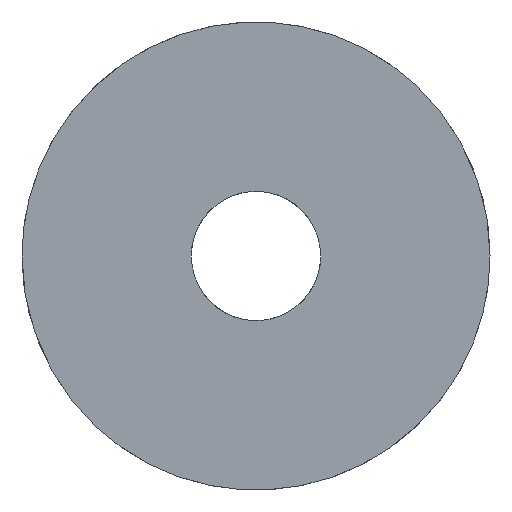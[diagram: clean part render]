
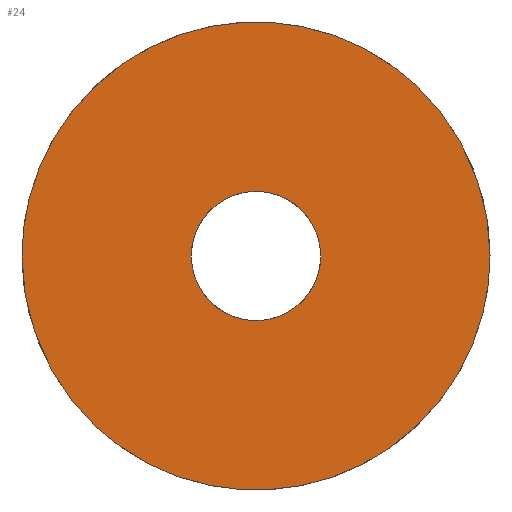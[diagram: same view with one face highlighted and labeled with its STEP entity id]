
A CAD part, left-side view. The second image highlights one B-rep face of the part: STEP entity #24.
In plain terms, the highlighted planar face has unit normal (-1, 0, 0).
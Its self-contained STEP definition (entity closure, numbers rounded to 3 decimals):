
#15=FACE_BOUND('',#61,.T.);
#24=ADVANCED_FACE('',(#42,#15),#249,.T.);
#42=FACE_OUTER_BOUND('',#60,.T.);
#60=EDGE_LOOP('',(#93,#94));
#61=EDGE_LOOP('',(#95,#96));
#93=ORIENTED_EDGE('',*,*,#159,.T.);
#94=ORIENTED_EDGE('',*,*,#178,.T.);
#95=ORIENTED_EDGE('',*,*,#181,.F.);
#96=ORIENTED_EDGE('',*,*,#162,.F.);
#159=EDGE_CURVE('',#229,#241,#195,.T.);
#162=EDGE_CURVE('',#231,#243,#198,.T.);
#178=EDGE_CURVE('',#241,#229,#214,.T.);
#181=EDGE_CURVE('',#243,#231,#217,.T.);
#195=(
BOUNDED_CURVE()
B_SPLINE_CURVE(2,(#479,#480,#481,#482,#483),.UNSPECIFIED.,.F.,.F.)
B_SPLINE_CURVE_WITH_KNOTS((3,2,3),(-625.177,-468.883,
-312.588),.UNSPECIFIED.)
CURVE()
GEOMETRIC_REPRESENTATION_ITEM()
RATIONAL_B_SPLINE_CURVE((1.,0.707,1.,0.707,1.))
REPRESENTATION_ITEM('')
);
#198=(
BOUNDED_CURVE()
B_SPLINE_CURVE(2,(#491,#492,#493,#494,#495),.UNSPECIFIED.,.F.,.F.)
B_SPLINE_CURVE_WITH_KNOTS((3,2,3),(-172.788,-129.591,
-86.394),.UNSPECIFIED.)
CURVE()
GEOMETRIC_REPRESENTATION_ITEM()
RATIONAL_B_SPLINE_CURVE((1.,0.707,1.,0.707,1.))
REPRESENTATION_ITEM('')
);
#214=(
BOUNDED_CURVE()
B_SPLINE_CURVE(2,(#553,#554,#555,#556,#557),.UNSPECIFIED.,.F.,.F.)
B_SPLINE_CURVE_WITH_KNOTS((3,2,3),(-312.588,-156.294,
0.),.UNSPECIFIED.)
CURVE()
GEOMETRIC_REPRESENTATION_ITEM()
RATIONAL_B_SPLINE_CURVE((1.,0.707,1.,0.707,1.))
REPRESENTATION_ITEM('')
);
#217=(
BOUNDED_CURVE()
B_SPLINE_CURVE(2,(#565,#566,#567,#568,#569),.UNSPECIFIED.,.F.,.F.)
B_SPLINE_CURVE_WITH_KNOTS((3,2,3),(-86.394,-43.197,
0.),.UNSPECIFIED.)
CURVE()
GEOMETRIC_REPRESENTATION_ITEM()
RATIONAL_B_SPLINE_CURVE((1.,0.707,1.,0.707,1.))
REPRESENTATION_ITEM('')
);
#229=VERTEX_POINT('',#435);
#231=VERTEX_POINT('',#437);
#241=VERTEX_POINT('',#447);
#243=VERTEX_POINT('',#449);
#249=PLANE('',#287);
#287=AXIS2_PLACEMENT_3D('',#335,#296,$);
#296=DIRECTION('',(-1.,0.,0.));
#335=CARTESIAN_POINT('',(117.,138.12,115.22));
#435=CARTESIAN_POINT('',(117.,113.245,239.595));
#437=CARTESIAN_POINT('',(117.,41.245,239.595));
#447=CARTESIAN_POINT('',(117.,-85.755,239.595));
#449=CARTESIAN_POINT('',(117.,-13.755,239.595));
#479=CARTESIAN_POINT('',(117.,113.245,239.595));
#480=CARTESIAN_POINT('',(117.,113.245,140.095));
#481=CARTESIAN_POINT('',(117.,13.745,140.095));
#482=CARTESIAN_POINT('',(117.,-85.755,140.095));
#483=CARTESIAN_POINT('',(117.,-85.755,239.595));
#491=CARTESIAN_POINT('',(117.,41.245,239.595));
#492=CARTESIAN_POINT('',(117.,41.245,212.095));
#493=CARTESIAN_POINT('',(117.,13.745,212.095));
#494=CARTESIAN_POINT('',(117.,-13.755,212.095));
#495=CARTESIAN_POINT('',(117.,-13.755,239.595));
#553=CARTESIAN_POINT('',(117.,-85.755,239.595));
#554=CARTESIAN_POINT('',(117.,-85.755,339.095));
#555=CARTESIAN_POINT('',(117.,13.745,339.095));
#556=CARTESIAN_POINT('',(117.,113.245,339.095));
#557=CARTESIAN_POINT('',(117.,113.245,239.595));
#565=CARTESIAN_POINT('',(117.,-13.755,239.595));
#566=CARTESIAN_POINT('',(117.,-13.755,267.095));
#567=CARTESIAN_POINT('',(117.,13.745,267.095));
#568=CARTESIAN_POINT('',(117.,41.245,267.095));
#569=CARTESIAN_POINT('',(117.,41.245,239.595));
